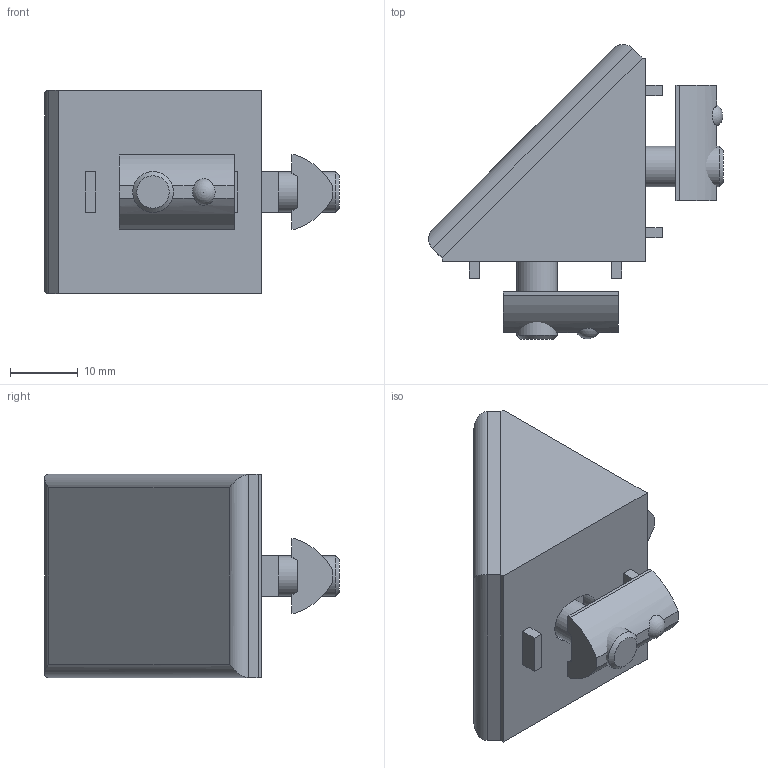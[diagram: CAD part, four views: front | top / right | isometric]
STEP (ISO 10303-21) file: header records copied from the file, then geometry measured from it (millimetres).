
FILE_DESCRIPTION(/* description */ ('STEP AP214'),/* implementation_level */ '2;1');
FILE_NAME(/* name */ 'Angle Bracket_ Zinc Die Casting GN 30i-30306-C-ZWSZS',/* time_stamp */ '2024-08-12T16:22:10+02:00',/* author */ ('License CC BY-ND 4.0'),/* organization */ ('CADENAS'),/* preprocessor_version */ 'ST-DEVELOPER v19.3',/* originating_system */ 'PARTsolutions',/* authorisation */ ' ');
FILE_SCHEMA (('AUTOMOTIVE_DESIGN {1 0 10303 214 3 1 1}'));
Length unit declared in the file: millimetre
Products named in the file (4): Angle Bracket, Zinc Die Casting GN 30i-30306-C-ZWSZS; Angle Bracket, Zinc Die Casting GN 30i-30306-C-ZWSZS-1; Angle Bracket, Zinc Die Casting GN 30i-30306-C-ZWSZS-2; Angle Bracket, Zinc Die Casting GN 30i-30306-C-ZWSZS-3
Assembly tree (5 placements, depth 2):
  Angle Bracket, Zinc Die Casting GN 30i-30306-C-ZWSZS
    Angle Bracket, Zinc Die Casting GN 30i-30306-C-ZWSZS-1
    Angle Bracket, Zinc Die Casting GN 30i-30306-C-ZWSZS-2  x2
    Angle Bracket, Zinc Die Casting GN 30i-30306-C-ZWSZS-3  x2
Bounding box: 43.5 x 43.5 x 30 mm (x, y, z)
Volume: 13508.4 mm3; surface area: 9660.5 mm2
Topology: 5 solids, 5 shells, 116 faces, 288 edges, 186 vertices
Faces by surface type: plane 88, cylinder 20, sphere 4, cone 4
Full cylindrical faces by diameter (mm): 4.917 x2, 5.4 x2, 6 x2, 10.5 x2
Entity records: 2827 total; most frequent: CARTESIAN_POINT 437, DIRECTION 398, ORIENTED_EDGE 384, EDGE_CURVE 192, LINE 156, VECTOR 156, VERTEX_POINT 128, AXIS2_PLACEMENT_3D 121
